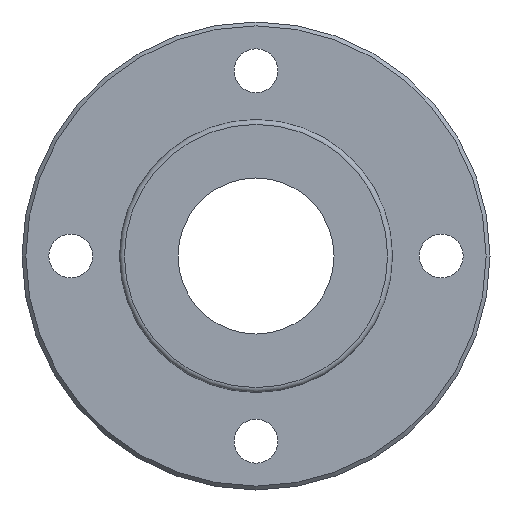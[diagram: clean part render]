
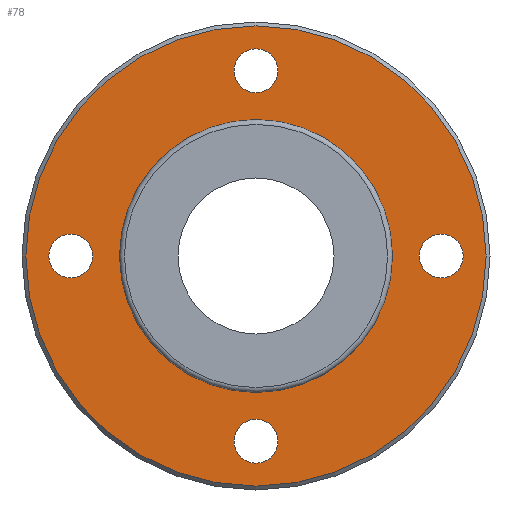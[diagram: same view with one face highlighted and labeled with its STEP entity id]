
A CAD part, left-side view. The second image highlights one B-rep face of the part: STEP entity #78.
In plain terms, the highlighted planar face has unit normal (-1, 0, 0).
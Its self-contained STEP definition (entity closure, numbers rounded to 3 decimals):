
#78=ADVANCED_FACE('',(#113,#114,#115,#116,#117,#118),#119,.T.);
#113=FACE_OUTER_BOUND('',#205,.T.);
#114=FACE_BOUND('',#206,.T.);
#115=FACE_BOUND('',#207,.T.);
#116=FACE_BOUND('',#208,.T.);
#117=FACE_BOUND('',#209,.T.);
#118=FACE_BOUND('',#210,.T.);
#119=PLANE('',#211);
#205=EDGE_LOOP('',(#303));
#206=EDGE_LOOP('',(#304));
#207=EDGE_LOOP('',(#305));
#208=EDGE_LOOP('',(#306));
#209=EDGE_LOOP('',(#307));
#210=EDGE_LOOP('',(#308));
#211=AXIS2_PLACEMENT_3D('',#309,#310,#311);
#303=ORIENTED_EDGE('',*,*,#442,.T.);
#304=ORIENTED_EDGE('',*,*,#443,.F.);
#305=ORIENTED_EDGE('',*,*,#444,.T.);
#306=ORIENTED_EDGE('',*,*,#445,.T.);
#307=ORIENTED_EDGE('',*,*,#446,.T.);
#308=ORIENTED_EDGE('',*,*,#447,.T.);
#309=CARTESIAN_POINT('',(-6.0,18.55,0.));
#310=DIRECTION('',(-1.0,0.,0.));
#311=DIRECTION('',(0.,0.0,1.0));
#442=EDGE_CURVE('',#480,#480,#481,.T.);
#443=EDGE_CURVE('',#482,#482,#483,.T.);
#444=EDGE_CURVE('',#484,#484,#485,.T.);
#445=EDGE_CURVE('',#486,#486,#487,.T.);
#446=EDGE_CURVE('',#488,#488,#489,.T.);
#447=EDGE_CURVE('',#490,#490,#491,.T.);
#480=VERTEX_POINT('',#544);
#481=CIRCLE('',#545,23.6);
#482=VERTEX_POINT('',#546);
#483=CIRCLE('',#547,13.5);
#484=VERTEX_POINT('',#548);
#485=CIRCLE('',#549,2.25);
#486=VERTEX_POINT('',#550);
#487=CIRCLE('',#551,2.25);
#488=VERTEX_POINT('',#552);
#489=CIRCLE('',#553,2.25);
#490=VERTEX_POINT('',#554);
#491=CIRCLE('',#555,2.25);
#544=CARTESIAN_POINT('',(-6.0,23.6,0.));
#545=AXIS2_PLACEMENT_3D('',#614,#615,#616);
#546=CARTESIAN_POINT('',(-6.0,13.5,0.));
#547=AXIS2_PLACEMENT_3D('',#617,#618,#619);
#548=CARTESIAN_POINT('',(-6.0,19.0,2.25));
#549=AXIS2_PLACEMENT_3D('',#620,#621,#622);
#550=CARTESIAN_POINT('',(-6.0,-19.0,2.25));
#551=AXIS2_PLACEMENT_3D('',#623,#624,#625);
#552=CARTESIAN_POINT('',(-6.0,0.,21.25));
#553=AXIS2_PLACEMENT_3D('',#626,#627,#628);
#554=CARTESIAN_POINT('',(-6.0,0.,-16.75));
#555=AXIS2_PLACEMENT_3D('',#629,#630,#631);
#614=CARTESIAN_POINT('',(-6.0,0.,0.));
#615=DIRECTION('',(-1.0,0.0,0.));
#616=DIRECTION('',(0.0,1.0,0.0));
#617=CARTESIAN_POINT('',(-6.0,0.,0.));
#618=DIRECTION('',(-1.0,0.0,0.));
#619=DIRECTION('',(0.0,1.0,0.0));
#620=CARTESIAN_POINT('',(-6.0,19.0,0.));
#621=DIRECTION('',(1.0,0.,0.));
#622=DIRECTION('',(0.,0.0,-1.0));
#623=CARTESIAN_POINT('',(-6.0,-19.0,0.));
#624=DIRECTION('',(1.0,0.,0.));
#625=DIRECTION('',(0.,0.0,-1.0));
#626=CARTESIAN_POINT('',(-6.0,0.,19.0));
#627=DIRECTION('',(1.0,0.,0.));
#628=DIRECTION('',(0.,0.0,-1.0));
#629=CARTESIAN_POINT('',(-6.0,0.,-19.0));
#630=DIRECTION('',(1.0,0.,0.));
#631=DIRECTION('',(0.,0.0,-1.0));
